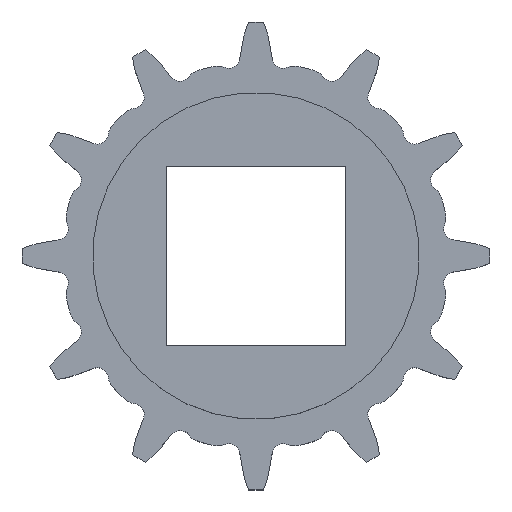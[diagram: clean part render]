
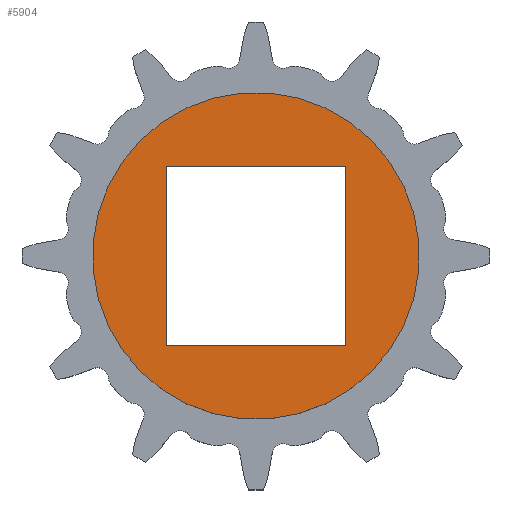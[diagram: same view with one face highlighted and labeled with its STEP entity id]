
A CAD part, top view. The second image highlights one B-rep face of the part: STEP entity #5904.
In plain terms, the highlighted planar face has unit normal (0, 0, 1).
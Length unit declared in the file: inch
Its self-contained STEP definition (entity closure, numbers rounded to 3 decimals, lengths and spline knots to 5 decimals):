
#682=CARTESIAN_POINT('',(0.,0.,0.49));
#683=DIRECTION('',(0.,0.,1.));
#684=DIRECTION('',(0.259,0.966,0.));
#685=AXIS2_PLACEMENT_3D('',#682,#683,#684);
#2183=CARTESIAN_POINT('',(0.,0.,0.49));
#2184=DIRECTION('',(0.,0.,-1.));
#2185=DIRECTION('',(0.259,0.966,0.));
#2186=AXIS2_PLACEMENT_3D('',#2183,#2184,#2185);
#2188=DIRECTION('',(-1.,0.,0.));
#2189=VECTOR('',#2188,1.5);
#2190=CARTESIAN_POINT('',(0.75,0.75,0.49));
#2191=LINE('',#2190,#2189);
#2192=DIRECTION('',(0.,-1.,0.));
#2193=VECTOR('',#2192,1.5);
#2194=CARTESIAN_POINT('',(-0.75,0.75,0.49));
#2195=LINE('',#2194,#2193);
#2196=DIRECTION('',(1.,0.,0.));
#2197=VECTOR('',#2196,1.5);
#2198=CARTESIAN_POINT('',(-0.75,-0.75,0.49));
#2199=LINE('',#2198,#2197);
#2200=DIRECTION('',(0.,1.,0.));
#2201=VECTOR('',#2200,1.5);
#2202=CARTESIAN_POINT('',(0.75,-0.75,0.49));
#2203=LINE('',#2202,#2201);
#2241=CARTESIAN_POINT('',(0.75,0.75,0.49));
#2243=VERTEX_POINT('',#2241);
#2245=CARTESIAN_POINT('',(-0.75,0.75,0.49));
#2247=VERTEX_POINT('',#2245);
#2249=CARTESIAN_POINT('',(-0.75,-0.75,0.49));
#2251=VERTEX_POINT('',#2249);
#2253=CARTESIAN_POINT('',(0.75,-0.75,0.49));
#2255=VERTEX_POINT('',#2253);
#2402=CARTESIAN_POINT('',(0.35355,1.31948,0.49));
#2404=VERTEX_POINT('',#2402);
#2409=CARTESIAN_POINT('',(0.96593,0.96593,0.49));
#2410=VERTEX_POINT('',#2409);
#5885=CARTESIAN_POINT('',(0.,0.,0.49));
#5886=DIRECTION('',(0.,0.,-1.));
#5887=DIRECTION('',(-0.866,-0.5,0.));
#5888=AXIS2_PLACEMENT_3D('',#5885,#5886,#5887);
#5889=PLANE('',#5888);
#5890=ORIENTED_EDGE('',*,*,#3302,.F.);
#5891=ORIENTED_EDGE('',*,*,#3335,.T.);
#5892=EDGE_LOOP('',(#5890,#5891));
#5893=FACE_OUTER_BOUND('',#5892,.F.);
#5895=ORIENTED_EDGE('',*,*,#5894,.T.);
#5897=ORIENTED_EDGE('',*,*,#5896,.T.);
#5899=ORIENTED_EDGE('',*,*,#5898,.T.);
#5901=ORIENTED_EDGE('',*,*,#5900,.T.);
#5902=EDGE_LOOP('',(#5895,#5897,#5899,#5901));
#5903=FACE_BOUND('',#5902,.F.);
#5904=ADVANCED_FACE('',(#5893,#5903),#5889,.F.);
#686=CIRCLE('',#685,1.36603);
#2187=CIRCLE('',#2186,1.36603);
#3302=EDGE_CURVE('',#2404,#2410,#686,.T.);
#3335=EDGE_CURVE('',#2404,#2410,#2187,.T.);
#5894=EDGE_CURVE('',#2243,#2247,#2191,.T.);
#5896=EDGE_CURVE('',#2247,#2251,#2195,.T.);
#5898=EDGE_CURVE('',#2251,#2255,#2199,.T.);
#5900=EDGE_CURVE('',#2255,#2243,#2203,.T.);
